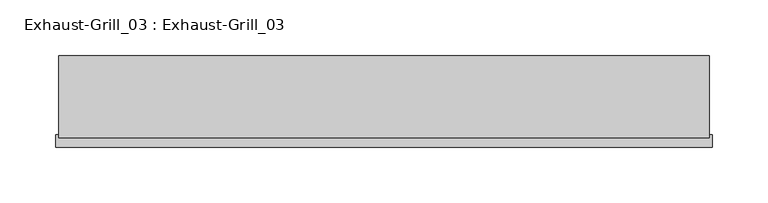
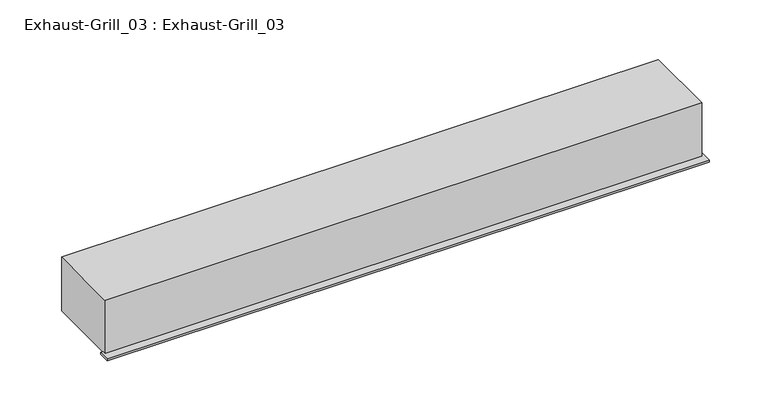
"""IFC4 building model written with IfcOpenShell, lengths in millimetres: air terminal geometry, Exhaust-Grill_03 : Exhaust-Grill_03."""

from ifc_helpers import new_model, si_unit, frame, origin, place, context, project, spatial, polyline, outline, extrude, faceted_brep, source, transform, mapped, element, save


def exhaust_grill_03_exhaust_grill_03_8e485aa9(model_context):
    return source(origin(), model_context, "Body", "SolidModel", [
        extrude(outline(polyline([(8.0516309, 4031.9750995), (11.215694, 4034.3823261), (14.6238971, 4036.5258807), (15.6102252, 4035.5395526), (13.4666705, 4032.1313495), (11.059444, 4028.967287), (8.3958691, 4026.0498065), (5.4783887, 4023.3862323), (2.3143266, 4020.9790057), (-1.0963178, 4018.8330096), (-2.082646, 4019.8193378), (0.0633499, 4023.2299823), (2.4705763, 4026.3940448), (5.1341504, 4029.3115253), (8.0516309, 4031.9750995)])), frame((-261.0027313, 0.0, 0.0), z_axis=(1.0, 0.0, 0.0), x_axis=(0.0, 1.0, 0.0)), (0.0, 0.0, 1.0), 522.0079041),
        faceted_brep([(292.0007324, 39.9998713, 4055.0000018), (-291.998291, 39.9998713, 4055.0000018), (-291.998291, -33.6083514, 4055.0000018), (292.0007324, -33.6083514, 4055.0000018), (292.0007324, 39.9998713, 3999.5), (292.0007324, -33.6083514, 3999.5), (-291.998291, -33.6083514, 3999.5), (-291.998291, 39.9998713, 3999.5), (291.0007324, 38.9998713, 3999.5), (-290.998291, 38.9998713, 3999.5), (-290.998291, -30.9962201, 3999.5), (291.0007324, -30.9962201, 3999.5), (261.0051727, 26.4134479, 4050.0), (261.0051727, -18.0224613, 4050.0), (-261.0027313, -18.0224613, 4050.0), (-261.0027313, 26.4134479, 4050.0), (-261.0027313, 26.4134479, 4015.0000009), (261.0051727, 26.4134479, 4015.0000009), (-261.0027313, -18.0224613, 4015.0000009), (261.0051727, -18.0224613, 4015.0000009), (291.0007324, 38.9998713, 4015.0000009), (291.0007324, -30.9962201, 4015.0000009), (-290.998291, -30.9962201, 4015.0000009), (-290.998291, 38.9998713, 4015.0000009)], [[[0, 1, 2, 3]], [[4, 5, 6, 7], [8, 9, 10, 11]], [[1, 0, 4, 7]], [[2, 1, 7, 6]], [[3, 2, 6, 5]], [[0, 3, 5, 4]], [[12, 13, 14, 15]], [[12, 15, 16, 17]], [[15, 14, 18, 16]], [[14, 13, 19, 18]], [[13, 12, 17, 19]], [[20, 21, 22, 23], [17, 16, 18, 19]], [[20, 23, 9, 8]], [[23, 22, 10, 9]], [[22, 21, 11, 10]], [[21, 20, 8, 11]]]),
        extrude(outline(polyline([(294.4999695, -30.9962201), (294.4999695, -41.9971943), (-294.5000076, -41.9971943), (-294.5000076, -30.9962201), (294.4999695, -30.9962201)])), frame((0.0, 0.0, 3997.9998784), z_axis=(0.0, 0.0, 1.0), x_axis=(1.0, 0.0, 0.0)), (0.0, 0.0, 1.0), 2.0001216),
    ])


if __name__ == "__main__":
    model = new_model("IFC4")
    model_context = context("Model", 3, world=origin())
    ifc_project = project(units=[si_unit("LENGTHUNIT", "METRE", prefix="MILLI")], contexts=[model_context])
    site = spatial("IfcSite", under=ifc_project)
    building = spatial("IfcBuilding", under=site)
    placement = place(None, origin())
    exhaust_grill_03_exhaust_grill_03_shape = exhaust_grill_03_exhaust_grill_03_8e485aa9(model_context)
    element("IfcAirTerminal", 1, ObjectType="Exhaust-Grill_03 : Exhaust-Grill_03", at=placement, inside=building, context=model_context, shape_type="MappedRepresentation", body=[
        mapped(exhaust_grill_03_exhaust_grill_03_shape, transform((0.0, 0.0, 0.0), x_axis=(1.0, 0.0, 0.0), y_axis=(0.0, 1.0, 0.0), z_axis=(0.0, 0.0, 1.0))),
    ])
    save(model, "model.ifc")
